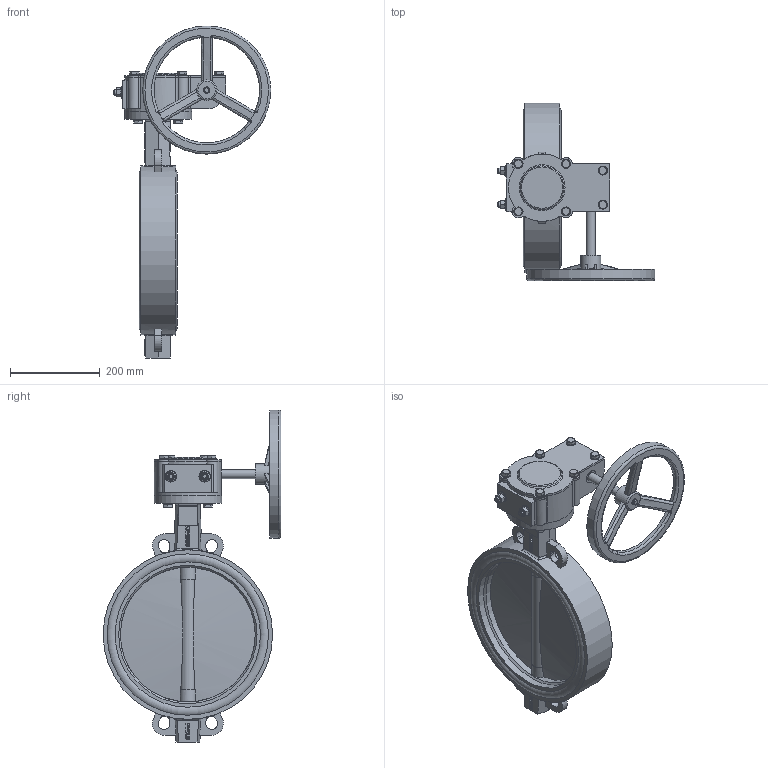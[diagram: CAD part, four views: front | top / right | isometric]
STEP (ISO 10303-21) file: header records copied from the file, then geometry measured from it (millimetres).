
FILE_DESCRIPTION(('STEP AP242'), '1');
FILE_NAME('Ïîâîðîòíûé çàòâîð ïîä ýëåêòðîïðèâîä', '', ('UNSPECIFIED'), ('UNSPECIFIED'), 'C3D Converter', 'C3D Toolkit', '');
FILE_SCHEMA(('AP242_MANAGED_MODEL_BASED_3D_ENGINEERING_MIM_LF { 1 0 10303 442 1 1 4 }'));
Length unit declared in the file: millimetre
Products named in the file (17): П
Assembly tree (36 placements, depth 3):
  (unnamed)
    (unnamed)
    П  x2
    (unnamed)
    (unnamed)
    (unnamed)
    (unnamed)
      (unnamed)
      (unnamed)
      (unnamed)
      (unnamed)
      (unnamed)  x6
      (unnamed)  x6
      (unnamed)  x2
      (unnamed)  x2
      (unnamed)
    (unnamed)  x4
    (unnamed)  x4
Bounding box: 350.5 x 395.5 x 738.5 mm (x, y, z)
Volume: 8026122.6 mm3; surface area: 1245887.4 mm2
Topology: 35 solids, 35 shells, 849 faces, 2057 edges, 1330 vertices
Faces by surface type: plane 390, extrusion 173, cylinder 149, bspline 60, cone 44, torus 29, sphere 4
Full cylindrical faces by diameter (mm): 6 x2, 10.647 x2, 11.421 x1, 12 x30, 13 x10, 14 x4, 20 x13, 27 x6, 30 x2, 37.05 x4, 38.184 x5, 45 x1, 150 x2, 235 x1, 245 x1, 275 x1, 285 x1, 300 x1, 307.8 x2, 323.4 x2, 341.1 x4, 358.8 x4, 377 x1
Entity records: 34604 total; most frequent: CARTESIAN_POINT 15929, ORIENTED_EDGE 3248, DIRECTION 2495, EDGE_CURVE 1624, VERTEX_POINT 1124, EDGE_LOOP 884, VECTOR 877, AXIS2_PLACEMENT_3D 809
